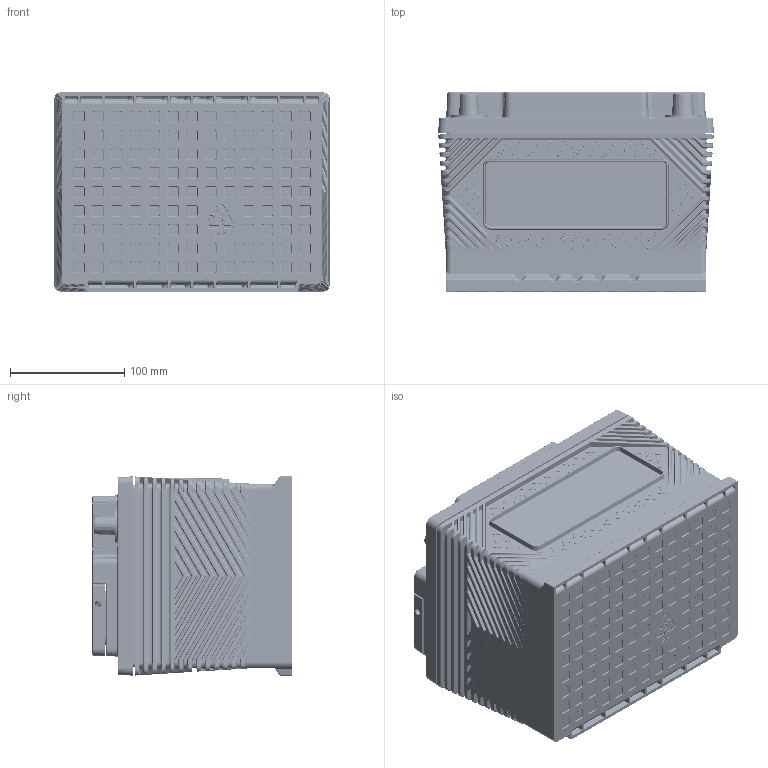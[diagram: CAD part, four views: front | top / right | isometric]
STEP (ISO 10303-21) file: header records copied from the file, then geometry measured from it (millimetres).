
FILE_DESCRIPTION (( 'STEP AP203' ), '1' );
FILE_NAME ('ODP-AGM96R.STEP', '2024-02-26T20:29:50', ( '' ), ( '' ), 'SwSTEP 2.0', 'SolidWorks 2022', '' );
FILE_SCHEMA (( 'CONFIG_CONTROL_DESIGN' ));
Products named in the file (1): ODP-AGM96R
Bounding box: 241.4 x 174.65 x 174.65 mm (x, y, z)
Volume: 1299668.1 mm3; surface area: 828900.9 mm2
Topology: 10 solids, 10 shells, 11128 faces, 26282 edges, 15118 vertices
Faces by surface type: cylinder 4074, plane 2343, bspline 1869, torus 1573, sphere 658, cone 611
Full cylindrical faces by diameter (mm): 14.935 x2, 16.076 x2, 17.983 x2, 18.059 x6, 18.542 x8, 21.031 x2, 21.336 x8, 25.4 x2
Entity records: 362415 total; most frequent: CARTESIAN_POINT 122564, ORIENTED_EDGE 51366, DIRECTION 50340, EDGE_CURVE 25683, AXIS2_PLACEMENT_3D 19902, VERTEX_POINT 15039, EDGE_LOOP 11622, FACE_OUTER_BOUND 11204
